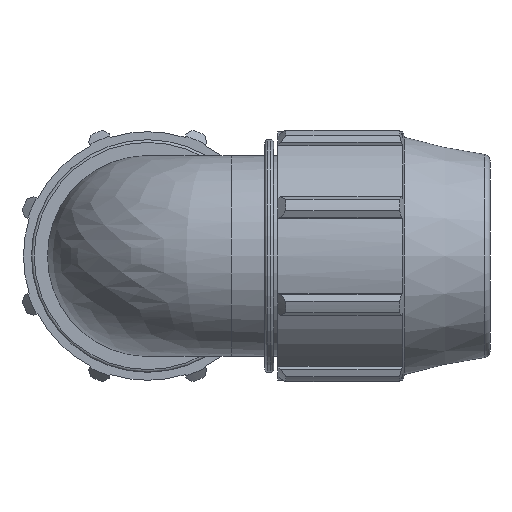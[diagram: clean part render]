
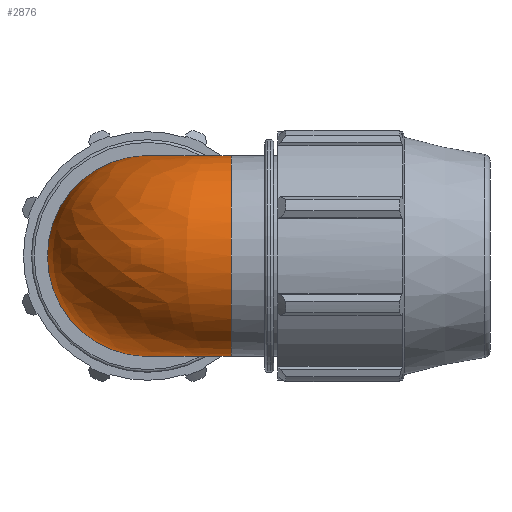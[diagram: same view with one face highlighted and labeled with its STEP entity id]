
A CAD part, front view. The second image highlights one B-rep face of the part: STEP entity #2876.
In plain terms, the highlighted free-form (B-spline) face has degree [2, 2] with [9, 3] control points.
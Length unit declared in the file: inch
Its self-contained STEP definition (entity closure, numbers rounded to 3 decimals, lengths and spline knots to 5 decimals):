
#560=(
BOUNDED_SURFACE()
B_SPLINE_SURFACE(2,2,((#4199,#4200,#4201),(#4202,#4203,#4204),(#4205,#4206,
#4207),(#4208,#4209,#4210),(#4211,#4212,#4213),(#4214,#4215,#4216),(#4217,
#4218,#4219),(#4220,#4221,#4222),(#4223,#4224,#4225)),.UNSPECIFIED.,.F.,
 .F.,.F.)
B_SPLINE_SURFACE_WITH_KNOTS((3,2,2,2,3),(3,3),(-2.55431,-1.27716,
0.,1.27716,2.55431),(-1.5708,0.),
 .UNSPECIFIED.)
GEOMETRIC_REPRESENTATION_ITEM()
RATIONAL_B_SPLINE_SURFACE(((1.,0.707,1.),(0.803,
0.568,0.803),(1.,0.707,1.),(0.803,
0.568,0.803),(1.,0.707,1.),(0.803,
0.568,0.803),(1.,0.707,1.),(0.803,
0.568,0.803),(1.,0.707,1.)))
REPRESENTATION_ITEM('')
SURFACE()
);
#583=FACE_OUTER_BOUND('',#733,.T.);
#733=EDGE_LOOP('',(#1794,#1795,#1796));
#897=CIRCLE('',#3053,1.4175);
#898=CIRCLE('',#3054,1.4175);
#899=CIRCLE('',#3055,1.4175);
#1056=VERTEX_POINT('',#4226);
#1057=VERTEX_POINT('',#4227);
#1058=VERTEX_POINT('',#4229);
#1355=EDGE_CURVE('',#1056,#1057,#897,.T.);
#1356=EDGE_CURVE('',#1058,#1056,#898,.T.);
#1357=EDGE_CURVE('',#1057,#1058,#899,.T.);
#1794=ORIENTED_EDGE('',*,*,#1355,.F.);
#1795=ORIENTED_EDGE('',*,*,#1356,.F.);
#1796=ORIENTED_EDGE('',*,*,#1357,.F.);
#2876=ADVANCED_FACE('',(#583),#560,.F.);
#3053=AXIS2_PLACEMENT_3D('',#4228,#3376,#3377);
#3054=AXIS2_PLACEMENT_3D('',#4230,#3378,#3379);
#3055=AXIS2_PLACEMENT_3D('',#4231,#3380,#3381);
#3376=DIRECTION('center_axis',(1.,0.,0.));
#3377=DIRECTION('ref_axis',(0.,0.,-1.));
#3378=DIRECTION('center_axis',(0.,1.,0.));
#3379=DIRECTION('ref_axis',(0.,0.,-1.));
#3380=DIRECTION('center_axis',(1.,0.,0.));
#3381=DIRECTION('ref_axis',(0.,0.,-1.));
#4199=CARTESIAN_POINT('Ctrl Pts',(1.18,1.18,0.78543));
#4200=CARTESIAN_POINT('Ctrl Pts',(1.18,1.18,0.78543));
#4201=CARTESIAN_POINT('Ctrl Pts',(1.18,1.18,0.78543));
#4202=CARTESIAN_POINT('Ctrl Pts',(1.18,0.59694,1.66139));
#4203=CARTESIAN_POINT('Ctrl Pts',(0.59694,0.59694,1.66139));
#4204=CARTESIAN_POINT('Ctrl Pts',(0.59694,1.18,1.66139));
#4205=CARTESIAN_POINT('Ctrl Pts',(1.18,-0.41028,1.35683));
#4206=CARTESIAN_POINT('Ctrl Pts',(-0.41028,-0.41028,
1.35683));
#4207=CARTESIAN_POINT('Ctrl Pts',(-0.41028,1.18,1.35683));
#4208=CARTESIAN_POINT('Ctrl Pts',(1.18,-1.4175,1.05226));
#4209=CARTESIAN_POINT('Ctrl Pts',(-1.4175,-1.4175,1.05226));
#4210=CARTESIAN_POINT('Ctrl Pts',(-1.4175,1.18,1.05226));
#4211=CARTESIAN_POINT('Ctrl Pts',(1.18,-1.4175,0.));
#4212=CARTESIAN_POINT('Ctrl Pts',(-1.4175,-1.4175,0.));
#4213=CARTESIAN_POINT('Ctrl Pts',(-1.4175,1.18,0.));
#4214=CARTESIAN_POINT('Ctrl Pts',(1.18,-1.4175,-1.05226));
#4215=CARTESIAN_POINT('Ctrl Pts',(-1.4175,-1.4175,-1.05226));
#4216=CARTESIAN_POINT('Ctrl Pts',(-1.4175,1.18,-1.05226));
#4217=CARTESIAN_POINT('Ctrl Pts',(1.18,-0.41028,-1.35683));
#4218=CARTESIAN_POINT('Ctrl Pts',(-0.41028,-0.41028,
-1.35683));
#4219=CARTESIAN_POINT('Ctrl Pts',(-0.41028,1.18,-1.35683));
#4220=CARTESIAN_POINT('Ctrl Pts',(1.18,0.59694,-1.66139));
#4221=CARTESIAN_POINT('Ctrl Pts',(0.59694,0.59694,-1.66139));
#4222=CARTESIAN_POINT('Ctrl Pts',(0.59694,1.18,-1.66139));
#4223=CARTESIAN_POINT('Ctrl Pts',(1.18,1.18,-0.78543));
#4224=CARTESIAN_POINT('Ctrl Pts',(1.18,1.18,-0.78543));
#4225=CARTESIAN_POINT('Ctrl Pts',(1.18,1.18,-0.78543));
#4226=CARTESIAN_POINT('',(1.18,1.18,0.78543));
#4227=CARTESIAN_POINT('',(1.18,-1.4175,0.));
#4228=CARTESIAN_POINT('Origin',(1.18,0.,0.));
#4229=CARTESIAN_POINT('',(1.18,1.18,-0.78543));
#4230=CARTESIAN_POINT('Origin',(0.,1.18,0.));
#4231=CARTESIAN_POINT('Origin',(1.18,0.,0.));
